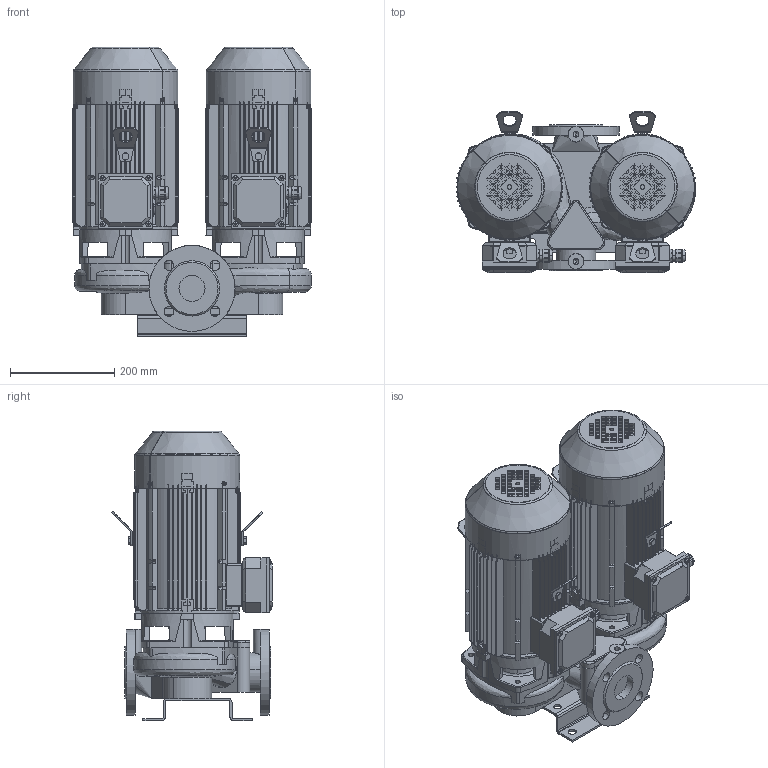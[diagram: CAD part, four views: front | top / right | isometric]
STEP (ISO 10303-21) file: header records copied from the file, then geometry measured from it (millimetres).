
FILE_DESCRIPTION(('STEP AP214'),'1');
FILE_NAME('export.stp','2018-05-30T07:44:54',(' '),(' '),'Spatial InterOp 3D',' ',' ');
FILE_SCHEMA(('AUTOMOTIVE_DESIGN { 1 0 10303 214 1 1 1 1 }'));
Length unit declared in the file: millimetre
Products named in the file (29): W_T50D2300_KP100; V_TLL50ABC; V_PPT50ABC; V_JALKA35973; 160017; 160009; V_MKP-100_F16; 160141; 160137; 160138; 160139; 160140; Koura_Ale_M5; Plug_Blind_M20; Sealing_Plug_M20; DIN_7985-M5X8; DIN_7985-M5X12; 480041; 480040___; 480043; 480042___; 160134; DIN_EN_24017_-_M8_16-Stainless_S; 160136
Assembly tree (54 placements, depth 4):
  W_T50D2300_KP100
    V_TLL50ABC  x2
    V_PPT50ABC
    V_JALKA35973
    V_MKP-100_F16
      160017
        160009
      160141
        160137
        160138
        160139
        160140
        Koura_Ale_M5
        Plug_Blind_M20
        Sealing_Plug_M20
        DIN_7985-M5X8
        DIN_7985-M5X12  x4
      480041
        480040___
      480043
        480042___
      160134  x2
      DIN_EN_24017_-_M8_16-Stainless_S  x2
      160136
    V_MKP-100_F16
      160017
        160009
      160141
        160137
        160138
        160139
        160140
        Koura_Ale_M5
        Plug_Blind_M20
        Sealing_Plug_M20
        DIN_7985-M5X8
        DIN_7985-M5X12  x4
      480041
        480040___
      480043
        480042___
      160134  x2
      DIN_EN_24017_-_M8_16-Stainless_S  x2
      160136
Bounding box: 460 x 308.62 x 556 mm (x, y, z)
Volume: 13761164.6 mm3; surface area: 5076083.6 mm2
Topology: 44 solids, 44 shells, 4560 faces, 12141 edges, 7754 vertices
Faces by surface type: plane 2120, cylinder 1397, torus 414, cone 332, bspline 291, sphere 6
Entity records: 89226 total; most frequent: CARTESIAN_POINT 28723, ORIENTED_EDGE 12148, DIRECTION 11514, EDGE_CURVE 6074, AXIS2_PLACEMENT_3D 4282, VERTEX_POINT 3897, LINE 2950, VECTOR 2950
